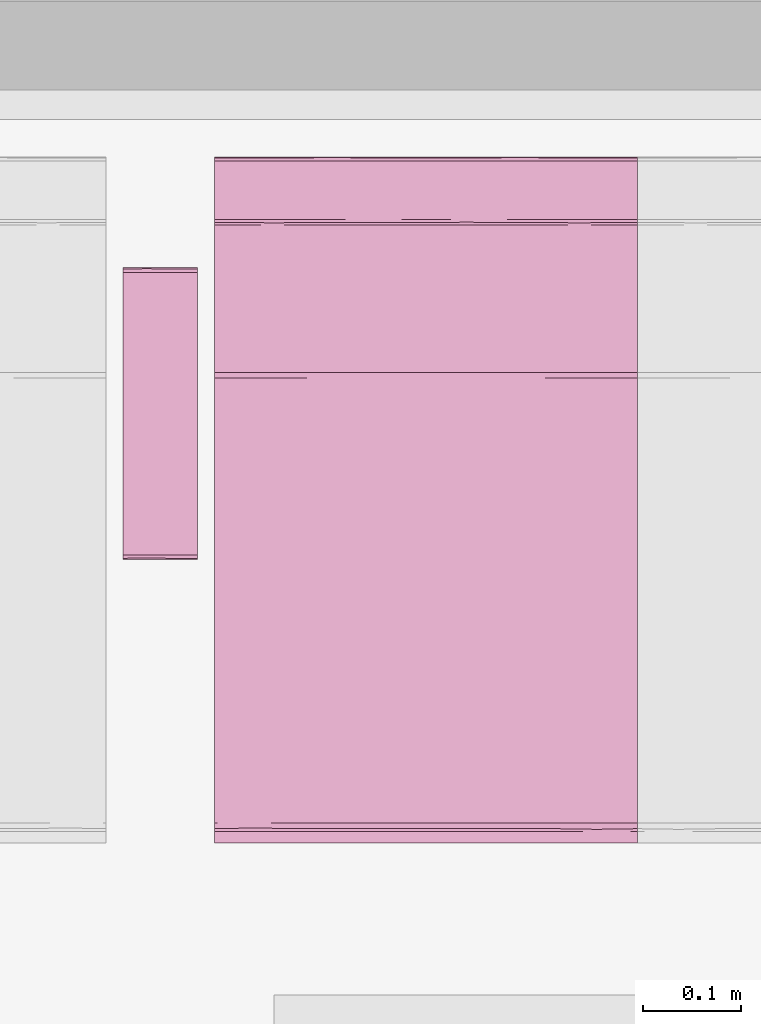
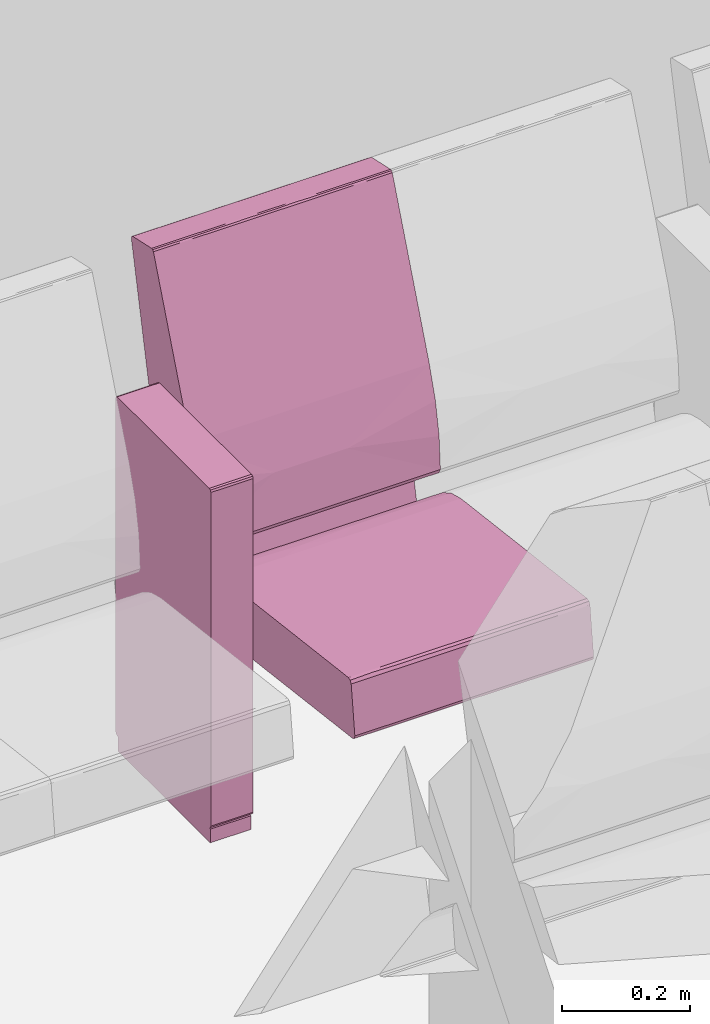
# One storey, part 117 of 155: 1 furnishing.
"""IFC2X3 building model written with IfcOpenShell, lengths in metres."""

from ifc_helpers import new_model, entity, si_unit, converted_unit, derived_unit, direction, frame, origin, place, context, subcontext, project, spatial, faceted_brep, source, transform, mapped, material, material_list, type_object, type_shapes, element, save


model = new_model("IFC2X3")

# Units and contexts
model_context = context("Model", 3, precision=1e-05, world=origin(), true_north=direction((6.12303176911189e-17, 1.0)))
body_context = subcontext(model_context, "Body", "Model", "MODEL_VIEW")
ifc_project = project(units=[si_unit("LENGTHUNIT", "METRE"), si_unit("AREAUNIT", "SQUARE_METRE"), si_unit("VOLUMEUNIT", "CUBIC_METRE"), converted_unit("PLANEANGLEUNIT", "DEGREE", entity("IfcRatioMeasure", 0.0174532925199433), si_unit("PLANEANGLEUNIT", "RADIAN"), dimensions=[0, 0, 0, 0, 0, 0, 0]), si_unit("MASSUNIT", "GRAM", prefix="KILO"), derived_unit("MASSDENSITYUNIT", [(si_unit("MASSUNIT", "GRAM", prefix="KILO"), 1), (si_unit("LENGTHUNIT", "METRE"), -3)]), si_unit("TIMEUNIT", "SECOND"), si_unit("FREQUENCYUNIT", "HERTZ"), si_unit("THERMODYNAMICTEMPERATUREUNIT", "DEGREE_CELSIUS"), derived_unit("THERMALTRANSMITTANCEUNIT", [(si_unit("MASSUNIT", "GRAM", prefix="KILO"), 1), (si_unit("THERMODYNAMICTEMPERATUREUNIT", "KELVIN"), -1), (si_unit("TIMEUNIT", "SECOND"), -3)]), derived_unit("VOLUMETRICFLOWRATEUNIT", [(si_unit("LENGTHUNIT", "METRE"), 3), (si_unit("TIMEUNIT", "SECOND"), -1)]), si_unit("ELECTRICCURRENTUNIT", "AMPERE"), si_unit("ELECTRICVOLTAGEUNIT", "VOLT"), si_unit("POWERUNIT", "WATT"), si_unit("FORCEUNIT", "NEWTON", prefix="KILO"), si_unit("ILLUMINANCEUNIT", "LUX"), si_unit("LUMINOUSFLUXUNIT", "LUMEN"), si_unit("LUMINOUSINTENSITYUNIT", "CANDELA"), derived_unit("USERDEFINED", [(si_unit("MASSUNIT", "GRAM", prefix="KILO"), -1), (si_unit("LENGTHUNIT", "METRE"), -2), (si_unit("TIMEUNIT", "SECOND"), 3), (si_unit("LUMINOUSFLUXUNIT", "LUMEN"), 1)]), derived_unit("LINEARVELOCITYUNIT", [(si_unit("LENGTHUNIT", "METRE"), 1), (si_unit("TIMEUNIT", "SECOND"), -1)]), si_unit("PRESSUREUNIT", "PASCAL"), derived_unit("USERDEFINED", [(si_unit("LENGTHUNIT", "METRE"), -2), (si_unit("MASSUNIT", "GRAM", prefix="KILO"), 1), (si_unit("TIMEUNIT", "SECOND"), -2)])], contexts=[model_context])

# Site, building, storey, space
site_placement = place(None, frame((26.9889013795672, -17.5624287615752, 0.0)))
site = spatial("IfcSite", under=ifc_project, at=site_placement, Name="Default", CompositionType="ELEMENT")
building_placement = place(site_placement, origin())
building = spatial("IfcBuilding", under=site, at=building_placement, Name="C. C. L. Monsenhor Antônio Sampaio", CompositionType="ELEMENT")
storey_placement = place(building_placement, frame((0.0, 0.0, 1.19999999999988)))
storey = spatial("IfcBuildingStorey", under=building, at=storey_placement, Name="Nível 1.2", CompositionType="ELEMENT", Elevation=1.19999999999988)
space_placement = place(storey_placement, origin())
space = spatial("IfcSpace", under=storey, at=space_placement, Name="94", CompositionType="ELEMENT", InteriorOrExteriorSpace="INTERNAL")

# Furnishing
ifc_material_1 = material(Name="V9 - V9 - Ecopelle_672_658")
ifc_material_2 = material(Name="V9 - V9 - RAL_9006_Grigio")
ifc_material_list_1 = material_list([ifc_material_1, ifc_material_2])
ifc_material_list_2 = material_list([ifc_material_1, ifc_material_2])
furniture_type = type_object("IfcFurnitureType", Name="Cadeira auditório", material=ifc_material_list_2)
shared_shape = source(origin(), body_context, "Body", "Brep", [
    faceted_brep([(0.405536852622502, 0.156348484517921, 0.339809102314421), (0.410560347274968, 0.131924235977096, 0.34246450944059), (0.405536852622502, 0.1075, 0.339809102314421), (0.405536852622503, 0.0537499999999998, 0.339809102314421), (0.410597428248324, 0.084060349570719, 0.342506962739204), (0.41079981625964, 0.0179166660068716, 0.342749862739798), (0.405536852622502, 0.215, 0.339809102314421), (0.410248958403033, 0.173608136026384, 0.342130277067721), (0.412515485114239, 0.185674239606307, 0.348529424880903), (0.412515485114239, 0.143333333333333, 0.348529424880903), (0.410560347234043, -0.131924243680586, 0.342464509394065), (0.405536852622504, -0.156348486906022, 0.33980910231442), (0.405536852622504, -0.1075, 0.33980910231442), (0.405536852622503, 0.0, 0.33980910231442), (0.41251548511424, 0.0, 0.348529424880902), (0.411170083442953, -0.0341365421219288, 0.343251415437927), (0.41059742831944, -0.0840603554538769, 0.342506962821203), (0.41251548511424, -0.143333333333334, 0.348529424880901), (0.412515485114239, 0.0358333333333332, 0.348529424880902), (0.412515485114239, 0.0716666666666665, 0.348529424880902), (0.405536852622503, -0.0537500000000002, 0.33980910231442), (0.412515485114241, -0.185674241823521, 0.348529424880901), (0.410799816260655, -0.215, 0.342749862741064), (0.410248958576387, -0.173608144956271, 0.342130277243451), (0.410799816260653, 0.215, 0.342749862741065), (0.412515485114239, 0.215, 0.348529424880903), (0.412515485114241, -0.215, 0.348529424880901), (0.41251548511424, -0.0716666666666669, 0.348529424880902), (0.405536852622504, -0.215, 0.33980910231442), (-0.0557900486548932, -0.215, 0.28268145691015), (-0.055790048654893, -0.168631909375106, 0.282681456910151), (-0.0557900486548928, -0.138065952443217, 0.282681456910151), (-0.0557900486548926, -0.107499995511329, 0.282681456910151), (-0.0557900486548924, -0.0806249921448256, 0.282681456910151), (-0.0557900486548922, -0.0537499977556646, 0.282681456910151), (-0.0557900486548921, -0.0268750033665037, 0.282681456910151), (-0.0557900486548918, 0.0, 0.28268145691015), (-0.0557900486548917, 0.0268749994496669, 0.282681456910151), (-0.0557900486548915, 0.0537499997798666, 0.282681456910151), (-0.0557900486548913, 0.0806250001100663, 0.282681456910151), (-0.0557900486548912, 0.107499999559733, 0.282681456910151), (-0.055790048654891, 0.134374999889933, 0.282681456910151), (-0.0557900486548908, 0.161250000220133, 0.282681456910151), (-0.0557900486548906, 0.1881249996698, 0.282681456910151), (-0.0557900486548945, 0.215, 0.28268145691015), (-0.0594787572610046, -0.0152829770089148, 0.283700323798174), (-0.0613666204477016, 0.0, 0.287029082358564), (-0.0594787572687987, 0.0179017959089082, 0.283700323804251), (-0.0613666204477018, 0.191815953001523, 0.287029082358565), (-0.0613666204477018, 0.215, 0.287029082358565), (-0.0594787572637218, 0.215, 0.283700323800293), (-0.0593340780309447, 0.0671874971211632, 0.283591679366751), (-0.0613666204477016, 0.030565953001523, 0.287029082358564), (-0.0594787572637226, -0.215, 0.283700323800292), (-0.0593337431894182, -0.184174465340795, 0.283591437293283), (-0.0613666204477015, -0.122263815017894, 0.287029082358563), (-0.0613666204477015, -0.0916978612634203, 0.287029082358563), (-0.0613666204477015, -0.0611319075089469, 0.287029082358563), (-0.0593023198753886, -0.0940625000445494, 0.283568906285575), (-0.059382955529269, 0.118123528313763, 0.28362747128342), (-0.0613666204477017, 0.122263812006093, 0.287029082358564), (-0.0597338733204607, 0.147039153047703, 0.283913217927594), (-0.0613666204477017, 0.168631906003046, 0.287029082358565), (-0.0592501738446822, 0.180223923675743, 0.283532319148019), (-0.0588783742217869, 0.0926899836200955, 0.283298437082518), (-0.0613666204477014, -0.215, 0.287029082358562), (-0.0613666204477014, -0.168631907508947, 0.287029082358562), (-0.0592576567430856, -0.123736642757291, 0.283537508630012), (-0.0594787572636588, -0.153348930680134, 0.283700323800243), (-0.0613666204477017, 0.0916978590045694, 0.287029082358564), (-0.0613666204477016, -0.0305659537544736, 0.287029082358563), (-0.059645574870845, -0.045848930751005, 0.283836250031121), (-0.0613666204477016, 0.0611319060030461, 0.287029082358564), (-0.069340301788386, -0.215, 0.351419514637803), (-0.0693403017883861, -0.143333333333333, 0.351419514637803), (-0.0693403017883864, -0.0716666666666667, 0.351419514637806), (-0.0693403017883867, 0.0, 0.351419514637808), (-0.069340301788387, 0.0716666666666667, 0.351419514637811), (-0.0693403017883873, 0.143333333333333, 0.351419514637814), (-0.0693403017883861, 0.215, 0.351419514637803), (-0.0597085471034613, 0.0, 0.37476954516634), (-0.0645543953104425, 0.112272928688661, 0.369803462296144), (-0.0653387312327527, 0.0126787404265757, 0.368680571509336), (-0.0681665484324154, -0.0888707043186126, 0.36292533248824), (-0.0655136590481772, -0.10440004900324, 0.368411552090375), (-0.0694879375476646, 0.0590582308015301, 0.356377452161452), (-0.0695056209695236, -0.125492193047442, 0.356093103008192), (-0.0597085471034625, -0.110316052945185, 0.374769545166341), (-0.0690003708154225, 0.132942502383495, 0.359900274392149), (-0.0672851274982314, 0.108066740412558, 0.365148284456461), (-0.0676206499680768, 0.215, 0.364371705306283), (-0.0686241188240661, 0.215, 0.356813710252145), (-0.0686241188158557, -0.214999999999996, 0.356813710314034), (-0.0686999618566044, 0.0358333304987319, 0.36116674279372), (-0.0694502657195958, -0.0358333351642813, 0.356863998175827), (-0.0676206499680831, -0.214999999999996, 0.364371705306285), (-0.0636645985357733, -0.214999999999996, 0.369570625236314), (-0.0597085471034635, -0.214999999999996, 0.374769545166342), (-0.0597085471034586, 0.215, 0.374769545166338), (-0.0636645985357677, 0.215, 0.36957062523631), (-0.0597085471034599, 0.110316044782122, 0.374769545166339), (-0.0324117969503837, 0.215, 0.390639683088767), (-0.0324117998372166, 0.0436847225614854, 0.39063968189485), (-0.0018793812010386, 0.215, 0.398686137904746), (-0.041847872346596, -0.0856576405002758, 0.386239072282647), (-0.0324117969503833, -0.215, 0.390639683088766), (-0.00187938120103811, -0.215, 0.398686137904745), (-0.00187938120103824, -0.102488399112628, 0.398686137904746), (-0.0219042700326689, -0.0570631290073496, 0.394412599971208), (-0.00187938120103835, 0.0, 0.398686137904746), (0.392202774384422, 0.215, 0.447486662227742), (0.392202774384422, -0.215, 0.447486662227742), (0.392202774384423, -0.156349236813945, 0.447486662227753), (0.392202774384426, -0.107499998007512, 0.447486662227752), (0.392202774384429, -0.0537500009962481, 0.44748666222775), (0.392202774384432, 0.0, 0.447486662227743), (0.392202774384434, 0.0537499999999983, 0.447486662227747), (0.392202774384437, 0.107499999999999, 0.447486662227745), (0.392202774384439, 0.156349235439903, 0.447486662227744), (0.398104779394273, -0.131924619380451, 0.445856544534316), (0.401125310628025, -0.0976984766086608, 0.440530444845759), (0.397860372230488, -0.0827732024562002, 0.446039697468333), (0.401125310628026, -0.215000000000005, 0.440530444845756), (0.401125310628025, -0.156349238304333, 0.440530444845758), (0.397373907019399, -0.173462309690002, 0.446363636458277), (0.398104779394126, -0.215000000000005, 0.445856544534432), (0.397860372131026, 0.0827731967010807, 0.446039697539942), (0.398104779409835, 0.131924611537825, 0.445856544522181), (0.398104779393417, -0.0237489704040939, 0.445856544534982), (0.398104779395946, 0.0268749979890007, 0.445856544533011), (0.401125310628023, 0.0488492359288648, 0.440530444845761), (0.401125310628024, -0.0488492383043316, 0.440530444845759), (0.398774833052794, 0.173462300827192, 0.445271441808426), (0.401125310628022, 0.097698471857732, 0.440530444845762), (0.401125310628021, 0.215, 0.440530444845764), (0.39810477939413, 0.215, 0.445856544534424), (0.401125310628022, 0.156349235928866, 0.440530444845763), (0.401125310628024, 0.0, 0.44053044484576)], [[[0, 1, 2]], [[3, 4, 5]], [[6, 7, 0]], [[7, 8, 9]], [[10, 11, 12]], [[3, 5, 13]], [[14, 15, 5]], [[16, 17, 10]], [[9, 1, 7]], [[18, 5, 4]], [[4, 9, 19, 18]], [[9, 4, 1]], [[2, 1, 4]], [[13, 15, 20]], [[21, 22, 23]], [[5, 18, 14]], [[24, 25, 8]], [[22, 21, 26]], [[24, 7, 6]], [[23, 11, 10]], [[20, 15, 16]], [[3, 2, 4]], [[14, 27, 15]], [[5, 15, 13]], [[27, 17, 16]], [[10, 12, 16]], [[21, 23, 17]], [[20, 16, 12]], [[15, 27, 16]], [[7, 1, 0]], [[28, 11, 23]], [[8, 7, 24]], [[23, 10, 17]], [[28, 23, 22]], [[28, 29, 30, 31, 32, 33, 34, 35, 36, 37, 38, 39, 40, 41, 42, 43, 44, 6, 0, 2, 3, 13, 20, 12, 11]], [[45, 46, 47]], [[48, 49, 50]], [[51, 47, 52]], [[29, 53, 54]], [[55, 56, 57, 58]], [[59, 60, 61]], [[61, 62, 63]], [[51, 64, 39]], [[65, 66, 54]], [[31, 67, 32]], [[45, 47, 38, 37, 36, 35]], [[68, 31, 30]], [[43, 50, 44]], [[63, 42, 61]], [[48, 50, 63]], [[64, 69, 59]], [[68, 54, 66]], [[63, 62, 48]], [[50, 43, 63]], [[67, 55, 58]], [[61, 42, 41]], [[45, 70, 46]], [[55, 68, 66]], [[71, 33, 58]], [[71, 57, 70]], [[41, 40, 59]], [[60, 62, 61]], [[71, 35, 34, 33]], [[35, 71, 45]], [[47, 46, 52]], [[45, 71, 70]], [[58, 57, 71]], [[32, 58, 33]], [[31, 68, 67]], [[54, 68, 30]], [[29, 54, 30]], [[54, 53, 65]], [[55, 67, 68]], [[32, 67, 58]], [[51, 52, 72, 69]], [[43, 42, 63]], [[41, 59, 61]], [[47, 51, 38]], [[40, 39, 64]], [[38, 51, 39]], [[69, 60, 59]], [[69, 64, 51]], [[40, 64, 59]], [[65, 73, 74, 75, 76, 77, 78, 79, 49, 48, 62, 60, 69, 72, 52, 46, 70, 57, 56, 55, 66]], [[80, 81, 82]], [[82, 83, 84]], [[78, 77, 76, 85]], [[86, 75, 74]], [[84, 80, 82]], [[80, 84, 87]], [[88, 89, 90]], [[91, 79, 78]], [[74, 73, 92]], [[85, 88, 91]], [[81, 89, 82]], [[93, 94, 83]], [[94, 86, 83]], [[85, 76, 94]], [[92, 86, 74]], [[85, 94, 93]], [[83, 92, 95]], [[75, 94, 76]], [[93, 83, 82]], [[95, 96, 84]], [[88, 85, 93]], [[96, 97, 87]], [[98, 99, 100]], [[78, 85, 91]], [[89, 88, 93]], [[90, 91, 88]], [[93, 82, 89]], [[81, 99, 89]], [[99, 90, 89]], [[100, 81, 80]], [[100, 99, 81]], [[83, 86, 92]], [[75, 86, 94]], [[95, 84, 83]], [[87, 84, 96]], [[101, 102, 103]], [[104, 80, 87, 97]], [[105, 106, 107]], [[107, 108, 105]], [[103, 102, 109]], [[104, 102, 80]], [[104, 108, 102]], [[98, 102, 101]], [[105, 104, 97]], [[105, 108, 104]], [[102, 98, 100, 80]], [[109, 108, 107]], [[109, 102, 108]], [[110, 103, 109, 107, 106, 111, 112, 113, 114, 115, 116, 117, 118]], [[119, 120, 121]], [[122, 123, 124]], [[111, 125, 124]], [[117, 116, 126]], [[124, 119, 112]], [[113, 112, 119]], [[127, 118, 117]], [[115, 114, 128, 129, 116]], [[129, 130, 126]], [[121, 131, 128]], [[127, 132, 118]], [[110, 118, 132]], [[127, 126, 133]], [[119, 124, 123]], [[134, 135, 132]], [[136, 132, 127]], [[120, 119, 123]], [[133, 136, 127]], [[137, 130, 129, 128, 131]], [[126, 127, 117]], [[130, 133, 126]], [[113, 119, 121]], [[129, 126, 116]], [[128, 114, 121]], [[114, 113, 121]], [[131, 121, 120]], [[111, 124, 112]], [[124, 125, 122]], [[134, 132, 136]], [[132, 135, 110]], [[19, 9, 8, 25, 134, 136, 133, 130, 137, 131, 120, 123, 122, 26, 21, 17, 27, 14, 18]], [[65, 53, 29, 28, 22, 26, 122, 125, 111, 106, 105, 97, 96, 95, 92, 73]], [[98, 101, 103, 110, 135, 134, 25, 24, 6, 44, 50, 49, 79, 91, 90, 99]]]),
    faceted_brep([(0.123144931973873, -0.283972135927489, 0.673627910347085), (0.12334838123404, -0.259944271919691, 0.6734355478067), (0.119812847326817, -0.27, 0.674900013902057), (0.124812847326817, -0.27, 0.669900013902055), (0.12334838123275, -0.232, 0.673435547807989), (0.119812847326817, -0.232, 0.674900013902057), (0.124812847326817, -0.308, 0.669900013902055), (0.119812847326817, -0.308, 0.674900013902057), (0.124812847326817, -0.249888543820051, 0.669900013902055), (0.124812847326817, -0.232, 0.669900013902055), (0.12334838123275, -0.308, 0.673435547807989), (0.124812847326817, -0.27, 0.035), (0.124812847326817, -0.232, 0.035), (0.124812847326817, -0.308, 0.0350000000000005), (0.123540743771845, -0.283972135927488, 0.0316679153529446), (0.12334838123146, -0.25994427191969, 0.0314644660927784), (0.119812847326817, -0.27, 0.0300000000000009), (0.12334838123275, -0.232, 0.0314644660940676), (0.119812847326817, -0.308, 0.0300000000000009), (0.119812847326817, -0.249888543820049, 0.030000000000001), (0.119812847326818, -0.232, 0.030000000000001), (0.123348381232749, -0.308, 0.0314644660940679), (-0.167179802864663, -0.308, 0.0300000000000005), (-0.167179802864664, -0.27, 0.0300000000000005), (-0.167179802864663, -0.232, 0.0300000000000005), (-0.17051188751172, -0.283972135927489, 0.0312721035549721), (-0.170715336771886, -0.25994427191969, 0.0314644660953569), (-0.172179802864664, -0.27, 0.0350000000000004), (-0.170715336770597, -0.232, 0.0314644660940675), (-0.172179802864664, -0.308, 0.0350000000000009), (-0.172179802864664, -0.24988854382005, 0.0350000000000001), (-0.172179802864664, -0.232, 0.0349999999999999), (-0.170715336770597, -0.308, 0.0314644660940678), (-0.172179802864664, -0.308, 0.669900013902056), (-0.172179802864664, -0.27, 0.669900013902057), (-0.172179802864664, -0.232, 0.669900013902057), (-0.170907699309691, -0.283972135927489, 0.673232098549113), (-0.170715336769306, -0.259944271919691, 0.673435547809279), (-0.167179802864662, -0.27, 0.674900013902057), (-0.170715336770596, -0.232, 0.67343554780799), (-0.167179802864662, -0.308, 0.674900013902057), (-0.167179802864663, -0.249888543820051, 0.674900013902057), (-0.167179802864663, -0.232, 0.674900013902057), (-0.170715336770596, -0.308, 0.67343554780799)], [[[0, 1, 2]], [[1, 0, 3]], [[1, 4, 5, 2]], [[6, 3, 0]], [[7, 0, 2]], [[4, 1, 3, 8, 9]], [[10, 0, 7]], [[0, 10, 6]], [[11, 12, 9, 8, 3, 6, 13]], [[14, 15, 11]], [[15, 14, 16]], [[15, 17, 12, 11]], [[18, 16, 14]], [[13, 14, 11]], [[17, 15, 16, 19, 20]], [[21, 14, 13]], [[14, 21, 18]], [[18, 22, 23, 24, 20, 19, 16]], [[25, 26, 23]], [[26, 25, 27]], [[26, 28, 24, 23]], [[29, 27, 25]], [[22, 25, 23]], [[28, 26, 27, 30, 31]], [[32, 25, 22]], [[25, 32, 29]], [[27, 29, 33, 34, 35, 31, 30]], [[36, 37, 34]], [[37, 36, 38]], [[37, 39, 35, 34]], [[40, 38, 36]], [[33, 36, 34]], [[39, 37, 38, 41, 42]], [[43, 36, 33]], [[36, 43, 40]], [[40, 7, 2, 5, 42, 41, 38]], [[35, 39, 42, 5, 4, 9, 12, 17, 20, 24, 28, 31]], [[29, 32, 22, 18, 21, 13, 6, 10, 7, 40, 43, 33]]]),
    faceted_brep([(-0.0695672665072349, 0.215, 0.476508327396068), (-0.074405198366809, 0.0524423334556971, 0.506888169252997), (-0.0655618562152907, 0.215, 0.415143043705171), (-0.0744051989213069, -0.0780075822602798, 0.506888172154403), (-0.0655618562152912, 0.0, 0.415143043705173), (-0.0655618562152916, -0.215, 0.415143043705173), (-0.0655618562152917, -0.1075, 0.415143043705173), (-0.0655618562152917, 0.1075, 0.415143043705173), (-0.0695672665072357, -0.215, 0.476508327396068), (-0.081111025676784, -0.215, 0.536911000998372), (-0.0811110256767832, 0.215, 0.536911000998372), (-0.100016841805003, 0.215, 0.595428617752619), (-0.100016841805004, 0.0, 0.595428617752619), (-0.100016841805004, -0.215, 0.595428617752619), (-0.0698317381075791, 0.0358333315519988, 0.406528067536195), (-0.0792851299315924, 0.0, 0.404772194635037), (-0.0792851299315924, 0.0716666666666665, 0.404772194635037), (-0.0792851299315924, -0.215, 0.404772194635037), (-0.0792851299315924, -0.143333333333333, 0.404772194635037), (-0.0698317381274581, -0.215, 0.406528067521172), (-0.0792851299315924, 0.143333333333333, 0.404772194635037), (-0.0792851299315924, 0.215, 0.404772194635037), (-0.0698317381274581, 0.215, 0.406528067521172), (-0.0694171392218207, 0.140338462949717, 0.406857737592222), (-0.0708115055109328, -0.0356393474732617, 0.405868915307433), (-0.0703502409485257, -0.107500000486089, 0.406159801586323), (-0.0792851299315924, -0.0716666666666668, 0.404772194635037), (-0.163837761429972, -0.215, 0.420611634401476), (-0.163837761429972, 0.215, 0.420611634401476), (-0.123612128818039, 0.215, 0.235917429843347), (-0.123612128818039, -0.215, 0.235917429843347), (-0.142059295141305, -0.215, 0.231899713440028), (-0.142059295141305, 0.215, 0.231899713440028), (-0.235388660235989, -0.215, 0.652619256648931), (-0.235388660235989, 0.215, 0.652619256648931), (-0.28428001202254, -0.215, 0.873004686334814), (-0.284280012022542, -0.191295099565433, 0.873004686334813), (-0.284280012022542, -0.161249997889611, 0.873004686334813), (-0.284280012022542, -0.134374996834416, 0.873004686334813), (-0.284280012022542, -0.107499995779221, 0.873004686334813), (-0.284280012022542, -0.0806249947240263, 0.873004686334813), (-0.284280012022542, -0.0537499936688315, 0.873004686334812), (-0.284280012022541, -0.0268749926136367, 0.873004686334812), (-0.28428001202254, 0.0, 0.873004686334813), (-0.284280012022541, 0.0268749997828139, 0.873004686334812), (-0.284280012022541, 0.0537500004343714, 0.873004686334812), (-0.284280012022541, 0.0806250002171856, 0.873004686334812), (-0.284280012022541, 0.1075, 0.873004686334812), (-0.284280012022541, 0.134374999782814, 0.873004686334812), (-0.28428001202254, 0.161249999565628, 0.873004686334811), (-0.28428001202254, 0.191295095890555, 0.873004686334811), (-0.28428001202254, 0.215, 0.873004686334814), (-0.283746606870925, 0.0872244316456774, 0.876674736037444), (-0.283504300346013, 0.0569644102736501, 0.877068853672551), (-0.283567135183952, -0.15546176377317, 0.876973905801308), (-0.283641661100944, -0.12093750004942, 0.87685511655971), (-0.283567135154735, 0.155461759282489, 0.876973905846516), (-0.28330409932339, 0.185293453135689, 0.877344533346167), (-0.283641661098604, 0.0179166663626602, 0.876855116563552), (-0.283641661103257, -0.0136463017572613, 0.876855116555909), (-0.280514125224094, -0.0358333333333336, 0.879190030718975), (-0.280514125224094, 0.0, 0.879190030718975), (-0.280514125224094, 0.0358333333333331, 0.879190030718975), (-0.280514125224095, -0.143333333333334, 0.879190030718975), (-0.280514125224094, -0.1075, 0.879190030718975), (-0.280514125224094, -0.071666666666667, 0.879190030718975), (-0.283746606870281, -0.0872244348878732, 0.876674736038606), (-0.280514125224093, 0.0716666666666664, 0.879190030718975), (-0.280514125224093, 0.1075, 0.879190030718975), (-0.283641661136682, 0.120937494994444, 0.876855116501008), (-0.280514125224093, 0.143333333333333, 0.879190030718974), (-0.283641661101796, 0.215, 0.876855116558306), (-0.283641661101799, -0.215, 0.876855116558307), (-0.283304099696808, -0.18529345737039, 0.877344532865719), (-0.280514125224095, -0.167590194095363, 0.879190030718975), (-0.280514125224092, 0.215, 0.879190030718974), (-0.280514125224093, 0.167590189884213, 0.879190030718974), (-0.280514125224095, -0.215, 0.879190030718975), (-0.283504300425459, -0.0569644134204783, 0.8770688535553), (-0.22111253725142, 0.215, 0.892176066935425), (-0.22111253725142, -0.215, 0.892176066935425), (-0.221112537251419, -0.191815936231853, 0.892176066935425), (-0.221112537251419, -0.161250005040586, 0.892176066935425), (-0.221112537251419, -0.134375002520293, 0.892176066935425), (-0.221112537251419, -0.1075, 0.892176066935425), (-0.221112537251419, -0.080624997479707, 0.892176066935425), (-0.221112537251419, -0.0537499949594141, 0.892176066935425), (-0.221112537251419, -0.0268750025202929, 0.892176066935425), (-0.221112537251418, 0.0, 0.892176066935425), (-0.221112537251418, 0.0268750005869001, 0.892176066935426), (-0.221112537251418, 0.05375000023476, 0.892176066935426), (-0.221112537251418, 0.0806249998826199, 0.892176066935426), (-0.221112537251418, 0.10749999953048, 0.892176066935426), (-0.221112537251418, 0.13437499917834, 0.892176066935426), (-0.221112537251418, 0.16124999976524, 0.892176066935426), (-0.221112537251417, 0.19181594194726, 0.892176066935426), (-0.215419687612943, 0.0, 0.889191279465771), (-0.215419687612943, 0.0358333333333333, 0.889191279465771), (-0.217722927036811, 0.0162353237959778, 0.891719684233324), (-0.217722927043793, -0.0134375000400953, 0.891719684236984), (-0.215419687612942, -0.191815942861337, 0.889191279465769), (-0.215419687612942, -0.168631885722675, 0.889191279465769), (-0.217722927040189, -0.182482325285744, 0.891719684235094), (-0.217722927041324, -0.215, 0.891719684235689), (-0.215419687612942, -0.215, 0.889191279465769), (-0.215419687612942, -0.1075, 0.88919127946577), (-0.215419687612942, -0.0716666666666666, 0.88919127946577), (-0.217722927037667, -0.0912646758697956, 0.891719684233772), (-0.217722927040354, -0.120937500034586, 0.89171968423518), (-0.215419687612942, -0.143333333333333, 0.88919127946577), (-0.215419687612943, 0.191815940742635, 0.889191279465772), (-0.215419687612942, 0.215, 0.889191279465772), (-0.217722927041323, 0.215, 0.89171968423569), (-0.217722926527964, 0.190103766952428, 0.891719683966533), (-0.217722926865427, 0.0912646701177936, 0.891719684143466), (-0.217816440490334, 0.0647800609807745, 0.891767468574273), (-0.215419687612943, 0.0716666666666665, 0.889191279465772), (-0.217816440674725, -0.0647800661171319, 0.891767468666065), (-0.2179983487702, -0.0390825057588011, 0.891853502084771), (-0.217558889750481, -0.155982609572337, 0.891629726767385), (-0.217722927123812, 0.120937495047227, 0.891719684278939), (-0.215419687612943, 0.16863188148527, 0.889191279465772), (-0.215419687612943, 0.143333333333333, 0.889191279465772), (-0.217558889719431, 0.15598260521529, 0.891629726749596), (-0.215419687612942, -0.0358333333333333, 0.889191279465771), (-0.215419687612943, 0.1075, 0.889191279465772), (-0.218257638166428, 0.0404491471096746, 0.891961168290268)], [[[0, 1, 2]], [[1, 3, 4]], [[3, 5, 6, 4]], [[1, 4, 7, 2]], [[5, 3, 8]], [[8, 3, 9]], [[0, 10, 1]], [[11, 12, 1]], [[3, 13, 9]], [[3, 12, 13]], [[11, 1, 10]], [[3, 1, 12]], [[14, 15, 16]], [[17, 18, 19]], [[20, 21, 22]], [[2, 23, 22]], [[14, 7, 4]], [[14, 24, 15]], [[6, 25, 24]], [[22, 23, 20]], [[14, 23, 7]], [[19, 6, 5]], [[4, 24, 14]], [[16, 23, 14]], [[16, 20, 23]], [[26, 25, 18]], [[25, 19, 18]], [[15, 24, 26]], [[23, 2, 7]], [[19, 25, 6]], [[26, 24, 25]], [[6, 24, 4]], [[15, 26, 18, 17, 27, 28, 21, 20, 16]], [[29, 28, 27, 30]], [[30, 31, 32, 29]], [[32, 31, 33, 34]], [[34, 33, 35, 36, 37, 38, 39, 40, 41, 42, 43, 44, 45, 46, 47, 48, 49, 50, 51]], [[52, 46, 53]], [[38, 54, 55]], [[56, 57, 49]], [[58, 59, 60, 61, 62]], [[63, 64, 55]], [[64, 65, 66]], [[52, 67, 68]], [[69, 70, 56]], [[49, 57, 50]], [[38, 55, 39]], [[71, 51, 50]], [[36, 35, 72]], [[59, 58, 44, 43, 42]], [[73, 74, 54]], [[55, 66, 39]], [[75, 57, 76]], [[77, 74, 73]], [[69, 52, 68]], [[37, 36, 73]], [[54, 74, 63]], [[56, 76, 57]], [[36, 72, 73]], [[75, 71, 57]], [[70, 76, 56]], [[52, 69, 47]], [[48, 47, 69]], [[42, 78, 59]], [[66, 55, 64]], [[50, 57, 71]], [[73, 54, 37]], [[77, 73, 72]], [[48, 69, 56]], [[56, 49, 48]], [[69, 68, 70]], [[53, 46, 45, 44]], [[58, 62, 53]], [[53, 44, 58]], [[38, 37, 54]], [[63, 55, 54]], [[78, 66, 65]], [[78, 40, 66]], [[67, 52, 53]], [[78, 42, 41, 40]], [[65, 60, 78]], [[59, 78, 60]], [[52, 47, 46]], [[40, 39, 66]], [[62, 67, 53]], [[79, 75, 76, 70, 68, 67, 62, 61, 60, 65, 64, 63, 74, 77, 80, 81, 82, 83, 84, 85, 86, 87, 88, 89, 90, 91, 92, 93, 94, 95]], [[96, 97, 98, 99]], [[100, 101, 102, 103, 104]], [[105, 106, 107, 108, 109]], [[110, 111, 112]], [[113, 112, 95]], [[114, 115, 116]], [[117, 118, 86]], [[82, 119, 83]], [[102, 82, 81, 80, 103]], [[112, 79, 95]], [[108, 107, 85, 84, 83]], [[88, 87, 99, 98, 89]], [[119, 101, 109]], [[93, 92, 120]], [[117, 85, 107]], [[113, 121, 110]], [[122, 121, 123]], [[113, 94, 123]], [[124, 99, 118]], [[122, 123, 120]], [[108, 119, 109]], [[113, 110, 112]], [[102, 101, 119]], [[119, 108, 83]], [[114, 125, 120]], [[123, 94, 93]], [[93, 120, 123]], [[114, 120, 92]], [[122, 120, 125]], [[117, 107, 106]], [[114, 92, 91]], [[116, 125, 114]], [[115, 91, 90]], [[85, 117, 86]], [[126, 89, 98]], [[117, 106, 124]], [[118, 99, 87]], [[124, 96, 99]], [[97, 116, 115]], [[97, 115, 126]], [[86, 118, 87]], [[124, 118, 117]], [[91, 115, 114]], [[115, 90, 126]], [[89, 126, 90]], [[97, 126, 98]], [[82, 102, 119]], [[94, 113, 95]], [[121, 113, 123]], [[11, 111, 110, 121, 122, 125, 116, 97, 96, 124, 106, 105, 109, 101, 100, 104, 13, 12]], [[27, 17, 19, 5, 8, 9, 13, 104, 103, 80, 77, 72, 35, 33, 31, 30]], [[51, 71, 75, 79, 112, 111, 11, 10, 0, 2, 22, 21, 28, 29, 32, 34]]]),
    faceted_brep([(0.120312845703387, -0.2335, 0.0), (0.120312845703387, -0.2335, 0.0260000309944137), (0.120312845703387, -0.249500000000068, 0.0260000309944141), (0.120312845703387, -0.27, 0.0260000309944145), (0.120312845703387, -0.3065, 0.0260000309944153), (0.120312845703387, -0.3065, 0.0), (-0.167687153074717, -0.3065, 0.0), (-0.167687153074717, -0.2335, 0.0), (-0.167687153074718, -0.27, 0.0260000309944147), (-0.167687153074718, -0.2335, 0.0260000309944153), (-0.167687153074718, -0.3065, 0.0260000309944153), (-0.166521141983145, -0.233500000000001, 0.0288228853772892), (-0.166521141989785, -0.257382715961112, 0.0288228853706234), (-0.163702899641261, -0.233500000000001, 0.0300000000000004), (-0.163702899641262, -0.3065, 0.0300000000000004), (-0.16652114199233, -0.279986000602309, 0.0288228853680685), (-0.166521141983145, -0.3065, 0.0288228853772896), (-0.163702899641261, -0.27, 0.0300000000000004), (0.116297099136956, -0.3065, 0.0300000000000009), (0.116297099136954, -0.269999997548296, 0.0300000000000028), (0.116297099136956, -0.2335, 0.0300000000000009), (0.119033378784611, -0.283124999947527, 0.0289323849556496), (0.1191357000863, -0.2335, 0.0288340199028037), (0.119135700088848, -0.259750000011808, 0.0288340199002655), (0.119135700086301, -0.3065, 0.0288340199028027)], [[[0, 1, 2, 3, 4, 5]], [[0, 5, 6, 7]], [[8, 9, 7, 6, 10]], [[11, 12, 13]], [[14, 15, 16]], [[15, 14, 17, 13, 12]], [[9, 8, 12, 11]], [[16, 15, 10]], [[8, 10, 15, 12]], [[14, 18, 19, 20, 13, 17]], [[21, 4, 3]], [[22, 20, 19, 23]], [[3, 2, 1, 22, 23]], [[24, 21, 18]], [[21, 3, 23]], [[18, 21, 19]], [[21, 24, 4]], [[21, 23, 19]], [[6, 5, 4, 24, 18, 14, 16, 10]], [[7, 9, 11, 13, 20, 22, 1, 0]]]),
])
type_shapes(furniture_type, [shared_shape])
furnishing_placement = place(space_placement, frame((-12.4559492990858, -10.4255921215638, 0.0), z_axis=(0.0, 0.0, 1.0), x_axis=(0.0, -1.0, 0.0)))
element("IfcFurnishingElement", 1, at=furnishing_placement, inside=space, type_object=furniture_type, material=ifc_material_list_1, Name="cadeira auditório pcd:Cadeira auditório", ObjectType="Cadeira auditório", context=body_context, shape_type="MappedRepresentation", body=[
    mapped(shared_shape, transform((0.0, 0.0, 0.0), scale=1.0)),
])

save(model, "model.ifc")
